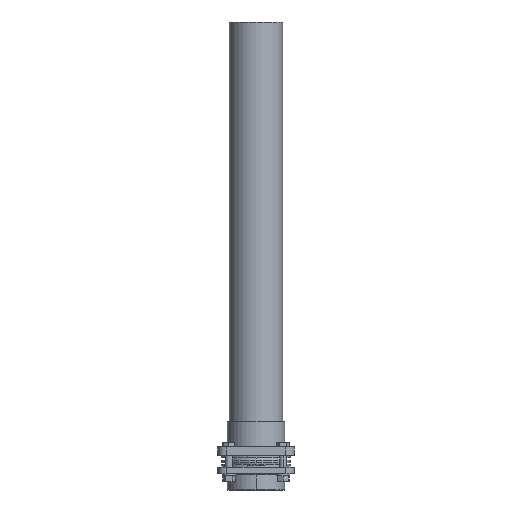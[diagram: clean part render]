
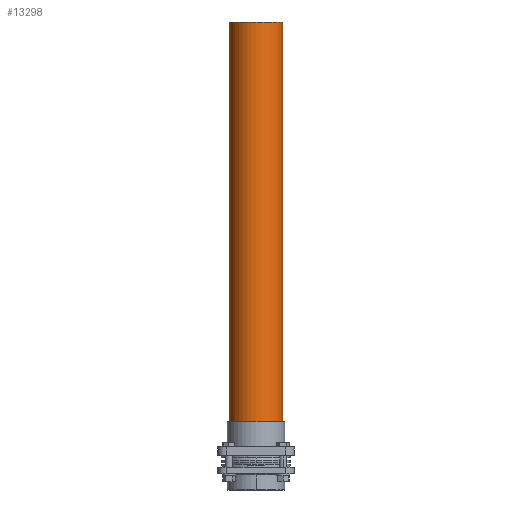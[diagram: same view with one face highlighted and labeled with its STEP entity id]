
A CAD part, front view. The second image highlights one B-rep face of the part: STEP entity #13298.
In plain terms, the highlighted cylindrical face has radius 31.5 mm (diameter 63 mm), a partial arc.
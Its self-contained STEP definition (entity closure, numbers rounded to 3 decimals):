
#6835 = CARTESIAN_POINT ( 'NONE',  ( -31.5, 0., 500. ) ) ;
#6839 = CARTESIAN_POINT ( 'NONE',  ( 31.5, 0., 500. ) ) ;
#6846 = CARTESIAN_POINT ( 'NONE',  ( 0., 0., 0. ) ) ;
#6847 = DIRECTION ( 'NONE',  ( 0., 0., 1. ) ) ;
#6848 = DIRECTION ( 'NONE',  ( 1., 0., 0. ) ) ;
#6852 = LINE ( 'NONE', #6835, #20428 ) ;
#6853 = CARTESIAN_POINT ( 'NONE',  ( 0., 0., 500. ) ) ;
#6854 = DIRECTION ( 'NONE',  ( 0., 0., 1. ) ) ;
#6855 = DIRECTION ( 'NONE',  ( 1., 0., 0. ) ) ;
#6856 = DIRECTION ( 'NONE',  ( 0., 0., -1. ) ) ;
#6859 = LINE ( 'NONE', #6839, #20430 ) ;
#6863 = DIRECTION ( 'NONE',  ( 0., 0., -1. ) ) ;
#8936 = CARTESIAN_POINT ( 'NONE',  ( -31.5, 0., 500. ) ) ;
#9200 = ORIENTED_EDGE ( 'NONE', *, *, #13481, .F. ) ;
#9201 = ORIENTED_EDGE ( 'NONE', *, *, #13478, .F. ) ;
#9202 = ORIENTED_EDGE ( 'NONE', *, *, #13479, .T. ) ;
#9203 = ORIENTED_EDGE ( 'NONE', *, *, #13476, .T. ) ;
#13051 = VERTEX_POINT ( 'NONE', #19445 ) ;
#13104 = VERTEX_POINT ( 'NONE', #19498 ) ;
#13107 = VERTEX_POINT ( 'NONE', #19501 ) ;
#13298 = ADVANCED_FACE ( 'NONE', ( #19657 ), #19659, .T. ) ;
#13476 = EDGE_CURVE ( 'NONE', #13051, #13107, #20420, .T. ) ;
#13478 = EDGE_CURVE ( 'NONE', #16752, #13104, #20426, .T. ) ;
#13479 = EDGE_CURVE ( 'NONE', #16752, #13051, #6852, .T. ) ;
#13481 = EDGE_CURVE ( 'NONE', #13104, #13107, #6859, .T. ) ;
#16246 = AXIS2_PLACEMENT_3D ( 'NONE', #19658, #19654, #19660 ) ;
#16363 = EDGE_LOOP ( 'NONE', ( #9200, #9201, #9202, #9203 ) ) ;
#16752 = VERTEX_POINT ( 'NONE', #8936 ) ;
#19445 = CARTESIAN_POINT ( 'NONE',  ( -31.5, 0., 0. ) ) ;
#19498 = CARTESIAN_POINT ( 'NONE',  ( 31.5, 0., 500. ) ) ;
#19501 = CARTESIAN_POINT ( 'NONE',  ( 31.5, 0., 0. ) ) ;
#19654 = DIRECTION ( 'NONE',  ( 0., 0., -1. ) ) ;
#19657 = FACE_OUTER_BOUND ( 'NONE', #16363, .T. ) ;
#19658 = CARTESIAN_POINT ( 'NONE',  ( 0., 0., 500. ) ) ;
#19659 = CYLINDRICAL_SURFACE ( 'NONE', #16246, 31.5 ) ;
#19660 = DIRECTION ( 'NONE',  ( -1., 0., 0. ) ) ;
#20420 = CIRCLE ( 'NONE', #20427, 31.5 ) ;
#20426 = CIRCLE ( 'NONE', #20431, 31.5 ) ;
#20427 = AXIS2_PLACEMENT_3D ( 'NONE', #6846, #6847, #6848 ) ;
#20428 = VECTOR ( 'NONE', #6856, 1000. ) ;
#20430 = VECTOR ( 'NONE', #6863, 1000. ) ;
#20431 = AXIS2_PLACEMENT_3D ( 'NONE', #6853, #6854, #6855 ) ;
